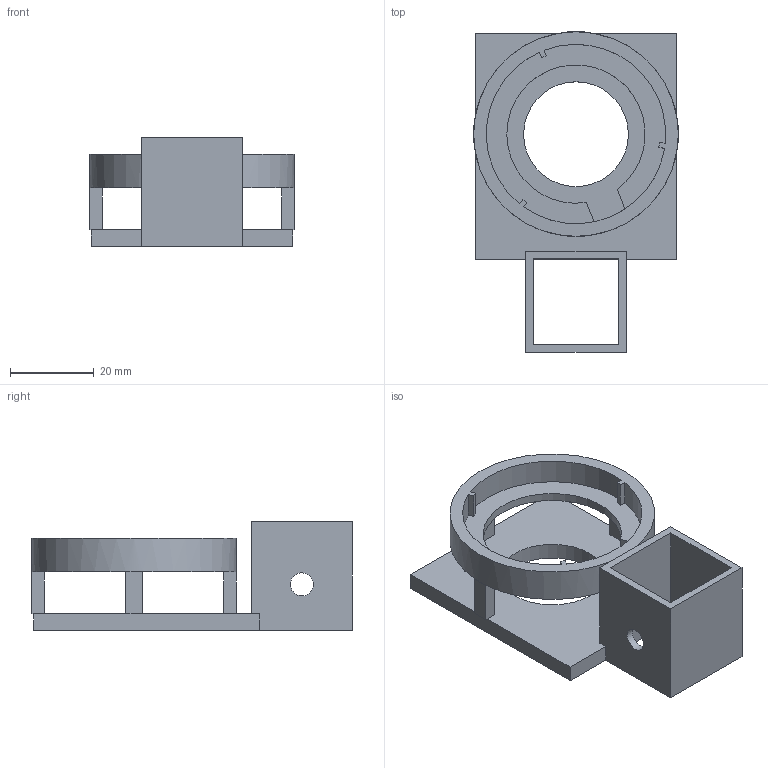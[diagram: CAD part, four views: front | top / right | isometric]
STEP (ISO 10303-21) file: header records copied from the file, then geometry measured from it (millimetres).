
FILE_DESCRIPTION(('Open CASCADE Model'),'2;1');
FILE_NAME('Open CASCADE Shape Model','2026-10-23T08:22:12',('Author'),( 'Open CASCADE'),'Open CASCADE STEP processor 7.9','Open CASCADE 7.9' ,'Unknown');
FILE_SCHEMA(('AUTOMOTIVE_DESIGN { 1 0 10303 214 1 1 1 1 }'));
Length unit declared in the file: millimetre
Products named in the file (1): Open CASCADE STEP translator 7.9 12
Bounding box: 48.8 x 76.4 x 26 mm (x, y, z)
Volume: 17327.3 mm3; surface area: 14671.8 mm2
Topology: 1 solids, 1 shells, 67 faces, 205 edges, 135 vertices
Faces by surface type: plane 59, cylinder 8
Full cylindrical faces by diameter (mm): 5.5 x2, 25 x1, 48.8 x1
Entity records: 4981 total; most frequent: CARTESIAN_POINT 830, DIRECTION 778, LINE 557, VECTOR 557, ORIENTED_EDGE 410, PCURVE 410, DEFINITIONAL_REPRESENTATION 410, EDGE_CURVE 205
